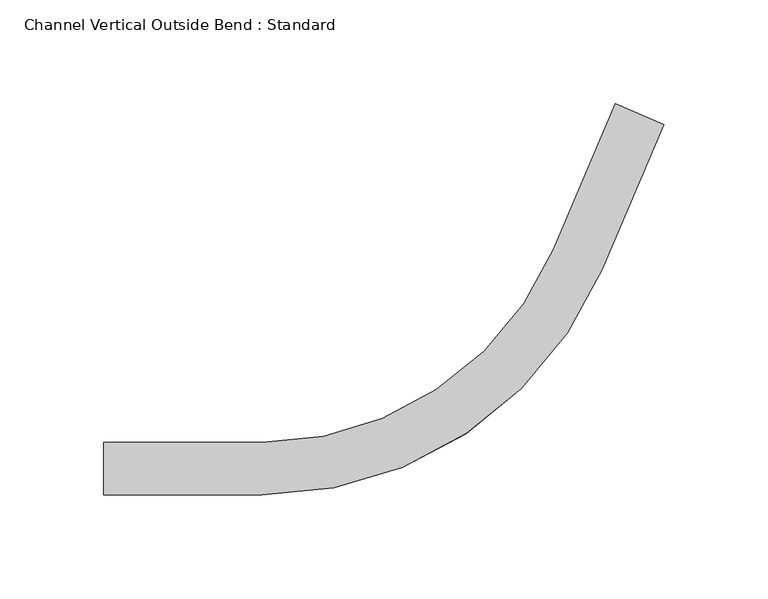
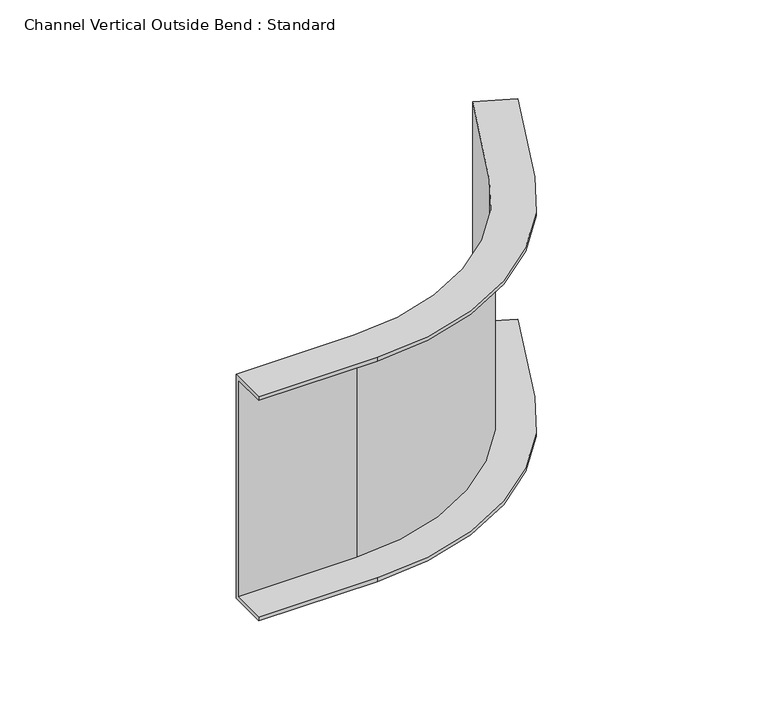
"""IFC4 building model written with IfcOpenShell, lengths in millimetres: cable carrier fitting geometry, Channel Vertical Outside Bend : Standard."""

from ifc_helpers import new_model, si_unit, frame, origin, place, context, project, spatial, polyline, circle_curve, source, transform, mapped, element, save
from ifc_brep_helpers import plane_surface, cylinder_surface, revolved_surface, advanced_brep


def channel_vertical_outside_bend_standard_bdbb8690(model_context):
    return source(origin(), model_context, "Body", "AdvancedBrep", [
        advanced_brep(
        [(-185.4773062, -12.7, 76.2), (-185.4773062, 12.7, 76.2), (-185.4773062, 12.7, -76.2), (-185.4773062, -12.7, -76.2), (-185.4773062, -12.7, -73.66), (-185.4773062, 10.16, -73.66), (-185.4773062, 10.16, 73.66), (-185.4773062, -12.7, 73.66), (84.1621688, 165.7704752, 76.2), (84.1621688, 165.7704752, 73.66), (63.1194278, 174.7025888, 73.66), (63.1194278, 174.7025888, -73.66), (84.1621688, 165.7704752, -73.66), (84.1621688, 165.7704752, -76.2), (60.7813455, 175.6950459, -76.2), (60.7813455, 175.6950459, 76.2), (-109.2773062, -12.7, 76.2), (54.3884568, 95.6280054, 76.2), (31.0076335, 105.552576, 76.2), (-109.2773062, 12.7, 76.2), (-109.2773062, 12.7, -76.2), (31.0076335, 105.552576, -76.2), (54.3884568, 95.6280054, -76.2), (-109.2773062, -12.7, -76.2), (-109.2773062, -12.7, -73.66), (54.3884568, 95.6280054, -73.66), (33.3457158, 104.560119, -73.66), (-109.2773062, 10.16, -73.66), (-109.2773062, 10.16, 73.66), (33.3457158, 104.560119, 73.66), (54.3884568, 95.6280054, 73.66), (-109.2773062, -12.7, 73.66)],
        [
            (0, 1),
            (1, 2),
            (2, 3),
            (3, 4),
            (4, 5),
            (5, 6),
            (6, 7),
            (7, 0),
            (8, 9),
            (9, 10),
            (10, 11),
            (11, 12),
            (12, 13),
            (13, 14),
            (14, 15),
            (15, 8),
            (0, 16),
            (16, 17, circle_curve(frame((-109.2773062, 165.1, 76.2), z_axis=(0.0, 0.0, 1.0), x_axis=(0.0, -1.0, 0.0)), 177.8)),
            (17, 8),
            (15, 18),
            (18, 19, circle_curve(frame((-109.2773062, 165.1, 76.2), z_axis=(0.0, 0.0, -1.0), x_axis=(0.0, -1.0, 0.0)), 152.4)),
            (19, 1),
            (19, 20),
            (20, 2),
            (20, 21, circle_curve(frame((-109.2773062, 165.1, -76.2), z_axis=(0.0, 0.0, 1.0), x_axis=(0.0, -1.0, 0.0)), 152.4)),
            (21, 14),
            (13, 22),
            (22, 23, circle_curve(frame((-109.2773062, 165.1, -76.2), z_axis=(0.0, 0.0, -1.0), x_axis=(0.0, -1.0, 0.0)), 177.8)),
            (23, 3),
            (23, 24),
            (24, 4),
            (24, 25, circle_curve(frame((-109.2773062, 165.1, -73.66), z_axis=(0.0, 0.0, 1.0), x_axis=(0.0, -1.0, 0.0)), 177.8)),
            (25, 12),
            (11, 26),
            (26, 27, circle_curve(frame((-109.2773062, 165.1, -73.66), z_axis=(0.0, 0.0, -1.0), x_axis=(0.0, -1.0, 0.0)), 154.94)),
            (27, 5),
            (27, 28),
            (28, 6),
            (28, 29, circle_curve(frame((-109.2773062, 165.1, 73.66), z_axis=(0.0, 0.0, 1.0), x_axis=(0.0, -1.0, 0.0)), 154.94)),
            (29, 10),
            (9, 30),
            (30, 31, circle_curve(frame((-109.2773062, 165.1, 73.66), z_axis=(0.0, 0.0, -1.0), x_axis=(0.0, -1.0, 0.0)), 177.8)),
            (31, 7),
            (31, 16),
            (18, 21),
            (22, 25),
            (26, 29),
            (30, 17),
        ],
        [
            plane_surface(frame((-185.4773062, 0.0, 0.0), z_axis=(-1.0, 0.0, 0.0), x_axis=(0.0, 0.0, 1.0))),
            plane_surface(frame((72.4717571, 170.7327605, 0.0), z_axis=(0.3907311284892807, 0.9205048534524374, 0.0), x_axis=(0.0, 0.0, 1.0))),
            plane_surface(frame((-185.4773062, -12.7, 76.2), z_axis=(0.0, 0.0, 1.0), x_axis=(1.0, 0.0, 0.0))),
            plane_surface(frame((-185.4773062, 12.7, 76.2), z_axis=(0.0, 1.0, 0.0), x_axis=(1.0, 0.0, 0.0))),
            plane_surface(frame((-185.4773062, 12.7, -76.2), z_axis=(0.0, 0.0, -1.0), x_axis=(1.0, 0.0, 0.0))),
            plane_surface(frame((-185.4773062, -12.7, -76.2), z_axis=(0.0, -1.0, 0.0), x_axis=(1.0, 0.0, 0.0))),
            plane_surface(frame((-185.4773062, -12.7, -73.66), z_axis=(0.0, 0.0, 1.0), x_axis=(1.0, 0.0, 0.0))),
            plane_surface(frame((-185.4773062, 10.16, -73.66), z_axis=(0.0, -1.0, 0.0), x_axis=(1.0, 0.0, 0.0))),
            plane_surface(frame((-185.4773062, 10.16, 73.66), z_axis=(0.0, 0.0, -1.0), x_axis=(1.0, 0.0, 0.0))),
            plane_surface(frame((-185.4773062, -12.7, 73.66), z_axis=(0.0, -1.0, 0.0), x_axis=(1.0, 0.0, 0.0))),
            revolved_surface(polyline([(-109.2773062, 12.699999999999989, 76.2), (-109.2773062, 12.699999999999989, -76.2)]), (-109.2773062, 165.1, 0.0), (0.0, 0.0, 1.0)),
            cylinder_surface(frame((-109.2773062, 165.1, 0.0), z_axis=(0.0, 0.0, 1.0), x_axis=(0.0, -1.0, 0.0)), 177.8),
            cylinder_surface(frame((-109.2773062, 165.1, 0.0), z_axis=(0.0, 0.0, 1.0), x_axis=(0.0, -1.0, 0.0)), 154.94),
            plane_surface(frame((31.0076335, 105.552576, 76.2), z_axis=(-0.9205048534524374, 0.3907311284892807, 0.0), x_axis=(0.3907311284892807, 0.9205048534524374, 0.0))),
            plane_surface(frame((54.3884568, 95.6280054, -76.2), z_axis=(0.9205048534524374, -0.3907311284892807, 0.0), x_axis=(0.3907311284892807, 0.9205048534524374, 0.0))),
            plane_surface(frame((33.3457158, 104.560119, -73.66), z_axis=(0.9205048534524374, -0.3907311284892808, 0.0), x_axis=(0.3907311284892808, 0.9205048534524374, 0.0))),
            plane_surface(frame((54.3884568, 95.6280054, 73.66), z_axis=(0.9205048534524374, -0.3907311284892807, 0.0), x_axis=(0.3907311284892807, 0.9205048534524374, 0.0))),
        ],
        [
            (0, [[1, 2, 3, 4, 5, 6, 7, 8]]),
            (1, [[9, 10, 11, 12, 13, 14, 15, 16]]),
            (2, [[-1, 17, 18, 19, -16, 20, 21, 22]]),
            (3, [[-2, -22, 23, 24]]),
            (4, [[-3, -24, 25, 26, -14, 27, 28, 29]]),
            (5, [[-4, -29, 30, 31]]),
            (6, [[-5, -31, 32, 33, -12, 34, 35, 36]]),
            (7, [[-6, -36, 37, 38]]),
            (8, [[-7, -38, 39, 40, -10, 41, 42, 43]]),
            (9, [[-8, -43, 44, -17]]),
            (10, [[-25, -23, -21, 45]]),
            (11, [[-32, -30, -28, 46]]),
            (12, [[-39, -37, -35, 47]]),
            (11, [[-18, -44, -42, 48]]),
            (13, [[-45, -20, -15, -26]]),
            (14, [[-46, -27, -13, -33]]),
            (15, [[-47, -34, -11, -40]]),
            (16, [[-48, -41, -9, -19]]),
        ],
    ),
    ])


if __name__ == "__main__":
    model = new_model("IFC4")
    model_context = context("Model", 3, world=origin())
    ifc_project = project(units=[si_unit("LENGTHUNIT", "METRE", prefix="MILLI")], contexts=[model_context])
    site = spatial("IfcSite", under=ifc_project)
    building = spatial("IfcBuilding", under=site)
    placement = place(None, origin())
    channel_vertical_outside_bend_standard_shape = channel_vertical_outside_bend_standard_bdbb8690(model_context)
    element("IfcCableCarrierFitting", 1, ObjectType="Channel Vertical Outside Bend : Standard", at=placement, inside=building, context=model_context, shape_type="MappedRepresentation", body=[
        mapped(channel_vertical_outside_bend_standard_shape, transform((0.0, 0.0, 0.0), x_axis=(1.0, 0.0, 0.0), y_axis=(0.0, 1.0, 0.0), z_axis=(0.0, 0.0, 1.0))),
    ])
    save(model, "model.ifc")
